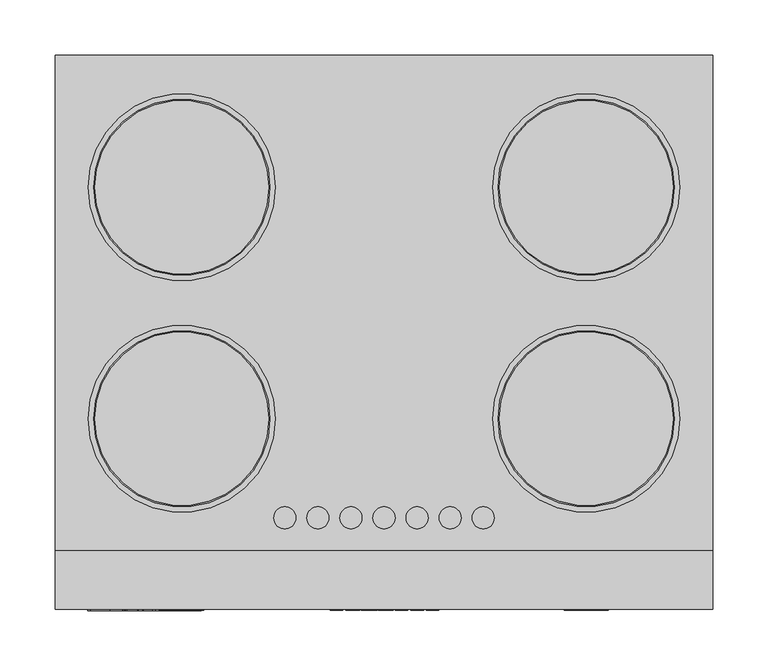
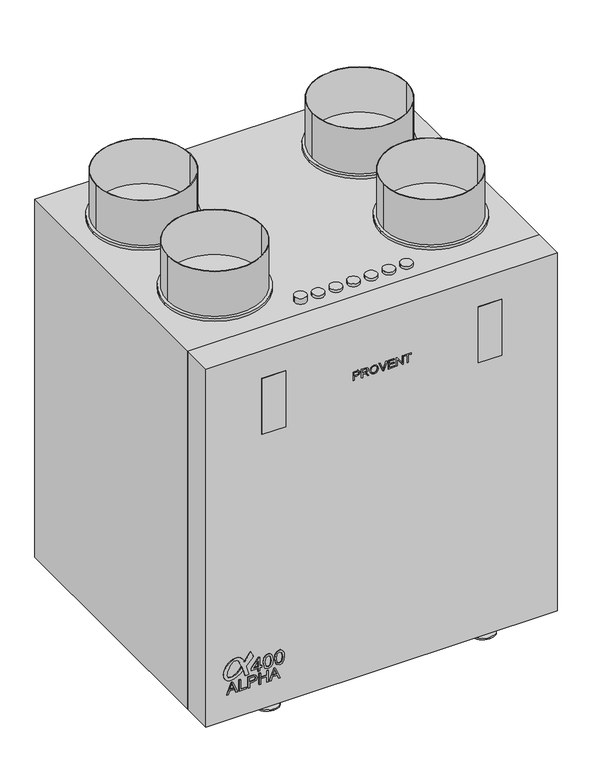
"""IFC4 building model written with IfcOpenShell, lengths in millimetres: proxy geometry, PROVENT_Вертикальная приточно-вытяжная установка_ALPHA 400 V_R : Provent ALPHA 400 V (R)."""

from ifc_helpers import new_model, si_unit, point, frame, frame_2d, origin, origin_with_axes, place, context, project, spatial, polyline, circle_curve, trimmed, segment, composite_curve, outline, extrude, source, transform, mapped, element, save
from ifc_brep_helpers import plane_surface, cylinder_surface, advanced_brep


def mechanical_equipment_2df97393(model_context):
    return source(origin(), model_context, "Body", "SolidModel", [
        extrude(outline(composite_curve([segment(trimmed(circle_curve(frame_2d((105.733129, -233.783782)), 0.5380284), [point((105.5307619, -233.2852621))], [point((105.5307619, -234.2823019))], True, "CARTESIAN"), True, "CONTINUOUS"), segment(polyline([(105.5307619, -234.2823019), (108.4438718, -235.40054), (110.8786758, -236.6411346), (111.8121807, -237.2947818)]), True, "CONTINUOUS"), segment(trimmed(circle_curve(frame_2d((104.0893382, -247.2651878)), 12.6115539), [point((111.8121807, -237.2947818))], [point((116.6261852, -248.6358658))], False, "CARTESIAN"), True, "CONTINUOUS"), segment(trimmed(circle_curve(frame_2d((94.7661112, -246.2458611)), 21.9903379), [point((116.6261852, -248.6358658))], [point((104.4885666, -265.9701817))], False, "CARTESIAN"), True, "CONTINUOUS"), segment(trimmed(circle_curve(frame_2d((93.5739124, -247.4383019)), 21.5072137), [point((104.4885666, -265.9701817))], [point((86.750764, -267.8344998))], False, "CARTESIAN"), True, "CONTINUOUS"), segment(trimmed(circle_curve(frame_2d((92.3890877, -256.7109746)), 12.4709065), [point((86.750764, -267.8344998))], [point((79.9366704, -256.0321435))], False, "CARTESIAN"), True, "CONTINUOUS"), segment(trimmed(circle_curve(frame_2d((110.0461474, -259.7363981)), 30.3364814), [point((79.9366704, -256.0321435))], [point((90.1381753, -236.8459033))], False, "CARTESIAN"), True, "CONTINUOUS"), segment(polyline([(90.1381753, -236.8459033), (97.4533974, -239.222763)]), True, "CONTINUOUS"), segment(trimmed(circle_curve(frame_2d((112.8376087, -264.6849056)), 29.7488598), [point((97.4533974, -239.222763))], [point((85.9068624, -252.0464893))], True, "CARTESIAN"), True, "CONTINUOUS"), segment(trimmed(circle_curve(frame_2d((94.2043298, -255.9404344)), 9.1657392), [point((85.9068624, -252.0464893))], [point((86.5295452, -260.9512682))], True, "CARTESIAN"), True, "CONTINUOUS"), segment(trimmed(circle_curve(frame_2d((91.0798658, -257.9803835)), 5.4342961), [point((86.5295452, -260.9512682))], [point((91.5402338, -263.3951443))], True, "CARTESIAN"), True, "CONTINUOUS"), segment(trimmed(circle_curve(frame_2d((91.5850962, -244.6438966)), 18.7513014), [point((91.5402338, -263.3951443))], [point((99.8454243, -261.47774))], True, "CARTESIAN"), True, "CONTINUOUS"), segment(trimmed(circle_curve(frame_2d((91.1893595, -236.4151166)), 26.5153267), [point((99.8454243, -261.47774))], [point((111.1844004, -253.829504))], True, "CARTESIAN"), True, "CONTINUOUS"), segment(trimmed(circle_curve(frame_2d((105.8571487, -249.1898123)), 7.0644427), [point((111.1844004, -253.829504))], [point((110.4868357, -243.8538635))], True, "CARTESIAN"), True, "CONTINUOUS"), segment(trimmed(circle_curve(frame_2d((74.7273898, -306.4745733)), 72.1116583), [point((110.4868357, -243.8538635))], [point((96.0155477, -237.5767824))], True, "CARTESIAN"), True, "CONTINUOUS"), segment(polyline([(96.0155477, -237.5767824), (80.1999436, -232.4379811), (80.1999436, -226.4036876), (94.9084674, -230.2047851)]), True, "CONTINUOUS"), segment(trimmed(circle_curve(frame_2d((95.7729921, -226.8594663)), 3.4552222), [point((94.9084674, -230.2047851))], [point((98.5138308, -228.9633589))], True, "CARTESIAN"), True, "CONTINUOUS"), segment(polyline([(98.5138308, -228.9633589), (109.4841363, -218.7333835)]), True, "CONTINUOUS"), segment(trimmed(circle_curve(frame_2d((110.1625275, -219.4608689)), 0.9947108), [point((109.4841363, -218.7333835))], [point((110.8409186, -218.7333835))], False, "CARTESIAN"), True, "CONTINUOUS"), segment(polyline([(110.8409186, -218.7333835), (118.9566741, -222.6917019)]), True, "CONTINUOUS"), segment(trimmed(circle_curve(frame_2d((118.472789, -223.0352964)), 0.593466), [point((118.9566741, -222.6917019))], [point((118.8242858, -223.513472))], False, "CARTESIAN"), True, "CONTINUOUS"), segment(polyline([(118.8242858, -223.513472), (105.5307619, -233.2852621)]), True, "CONTINUOUS")], self_intersect=False)), frame((0.0, -252.5, 0.0), z_axis=(0.0, 1.0, 0.0), x_axis=(0.0, 0.0, 1.0)), (0.0, 0.0, 1.0), 1.0),
        extrude(outline(polyline([(55.4809879, -263.5827445), (55.4809879, -260.9290891), (61.7595073, -258.6335054), (61.7595073, -250.3586131), (55.4809879, -248.0581243), (55.4809879, -245.4044689), (75.57225, -253.4242964), (75.57225, -255.5629171), (55.4809879, -263.5827445)]), holes=[polyline([(64.2709151, -257.7113479), (69.6419922, -255.7444055), (73.0608422, -254.4936067), (69.210344, -253.085845), (64.2709151, -251.2758655), (64.2709151, -257.7113479)])]), frame((0.0, -252.5, 0.0), z_axis=(0.0, 1.0, 0.0), x_axis=(0.0, 0.0, 1.0)), (0.0, 0.0, 1.0), 5.0),
        extrude(outline(polyline([(55.4809879, -242.7213829), (55.4809879, -230.1643441), (57.9923957, -230.1643441), (57.9923957, -240.2099751), (75.57225, -240.2099751), (75.57225, -242.7213829), (55.4809879, -242.7213829)])), frame((0.0, -252.5, 0.0), z_axis=(0.0, 1.0, 0.0), x_axis=(0.0, 0.0, 1.0)), (0.0, 0.0, 1.0), 5.0),
        extrude(outline(polyline([(55.4809879, -227.3390104), (55.4809879, -224.8276026), (63.6430631, -224.8276026), (63.6430631, -219.7214005), (65.4187069, -213.8867921), (69.7597144, -212.2705639), (72.499209, -212.8689852), (74.441626, -214.4508778), (75.3809513, -216.8911617), (75.57225, -219.8930788), (75.57225, -227.3390104), (55.4809879, -227.3390104)]), holes=[polyline([(66.1544709, -224.8276026), (73.0608422, -224.8276026), (73.0608422, -219.6331089), (72.8891639, -217.1217011), (71.7511823, -215.4269914), (69.6714228, -214.7819716), (67.0766284, -215.8758074), (66.1544709, -219.5742477), (66.1544709, -224.8276026)])]), frame((0.0, -252.5, 0.0), z_axis=(0.0, 1.0, 0.0), x_axis=(0.0, 0.0, 1.0)), (0.0, 0.0, 1.0), 5.0),
        extrude(outline(polyline([(55.4809879, -208.8173782), (55.4809879, -206.3059704), (64.898767, -206.3059704), (64.898767, -195.6324875), (55.4809879, -195.6324875), (55.4809879, -193.1210797), (75.57225, -193.1210797), (75.57225, -195.6324875), (67.4101748, -195.6324875), (67.4101748, -206.3059704), (75.57225, -206.3059704), (75.57225, -208.8173782), (55.4809879, -208.8173782)])), frame((0.0, -252.5, 0.0), z_axis=(0.0, 1.0, 0.0), x_axis=(0.0, 0.0, 1.0)), (0.0, 0.0, 1.0), 5.0),
        extrude(outline(polyline([(55.4809879, -191.0658457), (55.4809879, -188.4121902), (61.7595073, -186.1166065), (61.7595073, -177.8417142), (55.4809879, -175.5412255), (55.4809879, -172.88757), (75.57225, -180.9073975), (75.57225, -183.0460182), (55.4809879, -191.0658457)]), holes=[polyline([(64.2709151, -185.194449), (69.6419922, -183.2275066), (73.0608422, -181.9767078), (69.210344, -180.5689461), (64.2709151, -178.7589666), (64.2709151, -185.194449)])]), frame((0.0, -252.5, 0.0), z_axis=(0.0, 1.0, 0.0), x_axis=(0.0, 0.0, 1.0)), (0.0, 0.0, 1.0), 5.0),
        extrude(outline(polyline([(79.6103604, -210.5175072), (79.6103604, -207.3782475), (85.4964723, -207.3782475), (85.4964723, -204.2389878), (88.635732, -204.2389878), (88.635732, -207.3782475), (104.3320305, -207.3782475), (104.3320305, -209.7326923), (88.635732, -221.8973236), (85.4964723, -221.8973236), (85.4964723, -210.5175072), (79.6103604, -210.5175072)]), holes=[polyline([(88.635732, -210.5175072), (88.635732, -218.0345626), (98.3355539, -210.5175072), (88.635732, -210.5175072)])]), frame((0.0, -252.5, 0.0), z_axis=(0.0, 1.0, 0.0), x_axis=(0.0, 0.0, 1.0)), (0.0, 0.0, 1.0), 5.0),
        extrude(outline(polyline([(91.9650641, -201.4921356), (81.6091859, -198.990538), (79.2179529, -193.2515789), (80.5944447, -188.6561196), (84.7699054, -185.9245958), (91.9650641, -185.0110222), (97.8665044, -185.5812393), (101.5821126, -187.0527673), (103.9150975, -189.5850217), (104.7244379, -193.2515789), (103.3571432, -197.8286441), (99.1908796, -200.5693649), (91.9650641, -201.4921356)]), holes=[polyline([(91.9711954, -198.3528759), (99.9051838, -196.832297), (101.5851782, -193.2883671), (99.6783232, -189.5727589), (91.9711954, -188.1502819), (84.1812942, -189.6218099), (82.3572126, -193.2515789), (84.1751628, -196.8813479), (91.9711954, -198.3528759)])]), frame((0.0, -252.5, 0.0), z_axis=(0.0, 1.0, 0.0), x_axis=(0.0, 0.0, 1.0)), (0.0, 0.0, 1.0), 5.0),
        extrude(outline(polyline([(91.9650641, -182.26417), (81.6091859, -179.7625724), (79.2179529, -174.0236133), (80.5944447, -169.428154), (84.7699054, -166.6966302), (91.9650641, -165.7830566), (97.8665044, -166.3532737), (101.5821126, -167.8248017), (103.9150975, -170.3570561), (104.7244379, -174.0236133), (103.3571432, -178.6006784), (99.1908796, -181.3413993), (91.9650641, -182.26417)]), holes=[polyline([(91.9711954, -179.1249103), (99.9051838, -177.6043314), (101.5851782, -174.0604015), (99.6783232, -170.3447933), (91.9711954, -168.9223163), (84.1812942, -170.3938443), (82.3572126, -174.0236133), (84.1751628, -177.6533823), (91.9711954, -179.1249103)])]), frame((0.0, -252.5, 0.0), z_axis=(0.0, 1.0, 0.0), x_axis=(0.0, 0.0, 1.0)), (0.0, 0.0, 1.0), 5.0),
        extrude(outline(polyline([(-163.5, -252.5), (-203.5, -252.5), (-203.5, -251.5), (-163.5, -251.5), (-163.5, -252.5)])), frame((0.0, 0.0, 503.0), z_axis=(0.0, 0.0, 1.0), x_axis=(1.0, 0.0, 0.0)), (0.0, 0.0, 1.0), 100.0),
        extrude(outline(polyline([(203.5, -252.5), (163.5, -252.5), (163.5, -251.5), (203.5, -251.5), (203.5, -252.5)])), frame((0.0, 0.0, 503.0), z_axis=(0.0, 0.0, 1.0), x_axis=(1.0, 0.0, 0.0)), (0.0, 0.0, 1.0), 100.0),
        extrude(outline(composite_curve([segment(trimmed(circle_curve(frame_2d((-90.0, -168.5)), 10.0), [point((-100.0, -168.5))], [point((-80.0, -168.5))], False, "CARTESIAN"), True, "CONTINUOUS"), segment(trimmed(circle_curve(frame_2d((-90.0, -168.5)), 10.0), [point((-80.0, -168.5))], [point((-100.0, -168.5))], False, "CARTESIAN"), True, "CONTINUOUS")], self_intersect=False)), frame((0.0, 0.0, 653.0), z_axis=(0.0, 0.0, 1.0), x_axis=(1.0, 0.0, 0.0)), (0.0, 0.0, 1.0), 10.0),
        extrude(outline(composite_curve([segment(trimmed(circle_curve(frame_2d((0.0, -168.5)), 10.0), [point((-10.0, -168.5))], [point((10.0, -168.5))], False, "CARTESIAN"), True, "CONTINUOUS"), segment(trimmed(circle_curve(frame_2d((0.0, -168.5)), 10.0), [point((10.0, -168.5))], [point((-10.0, -168.5))], False, "CARTESIAN"), True, "CONTINUOUS")], self_intersect=False)), frame((0.0, 0.0, 653.0), z_axis=(0.0, 0.0, 1.0), x_axis=(1.0, 0.0, 0.0)), (0.0, 0.0, 1.0), 5.0),
        extrude(outline(composite_curve([segment(trimmed(circle_curve(frame_2d((30.0, -168.5)), 10.0), [point((20.0, -168.5))], [point((40.0, -168.5))], False, "CARTESIAN"), True, "CONTINUOUS"), segment(trimmed(circle_curve(frame_2d((30.0, -168.5)), 10.0), [point((40.0, -168.5))], [point((20.0, -168.5))], False, "CARTESIAN"), True, "CONTINUOUS")], self_intersect=False)), frame((0.0, 0.0, 653.0), z_axis=(0.0, 0.0, 1.0), x_axis=(1.0, 0.0, 0.0)), (0.0, 0.0, 1.0), 5.0),
        extrude(outline(composite_curve([segment(trimmed(circle_curve(frame_2d((60.0, -168.5)), 10.0), [point((50.0, -168.5))], [point((70.0, -168.5))], False, "CARTESIAN"), True, "CONTINUOUS"), segment(trimmed(circle_curve(frame_2d((60.0, -168.5)), 10.0), [point((70.0, -168.5))], [point((50.0, -168.5))], False, "CARTESIAN"), True, "CONTINUOUS")], self_intersect=False)), frame((0.0, 0.0, 653.0), z_axis=(0.0, 0.0, 1.0), x_axis=(1.0, 0.0, 0.0)), (0.0, 0.0, 1.0), 5.0),
        extrude(outline(composite_curve([segment(trimmed(circle_curve(frame_2d((90.0, -168.5)), 10.0), [point((80.0, -168.5))], [point((100.0, -168.5))], False, "CARTESIAN"), True, "CONTINUOUS"), segment(trimmed(circle_curve(frame_2d((90.0, -168.5)), 10.0), [point((100.0, -168.5))], [point((80.0, -168.5))], False, "CARTESIAN"), True, "CONTINUOUS")], self_intersect=False)), frame((0.0, 0.0, 653.0), z_axis=(0.0, 0.0, 1.0), x_axis=(1.0, 0.0, 0.0)), (0.0, 0.0, 1.0), 5.0),
        extrude(outline(composite_curve([segment(trimmed(circle_curve(frame_2d((-30.0, -168.5)), 10.0), [point((-40.0, -168.5))], [point((-20.0, -168.5))], False, "CARTESIAN"), True, "CONTINUOUS"), segment(trimmed(circle_curve(frame_2d((-30.0, -168.5)), 10.0), [point((-20.0, -168.5))], [point((-40.0, -168.5))], False, "CARTESIAN"), True, "CONTINUOUS")], self_intersect=False)), frame((0.0, 0.0, 653.0), z_axis=(0.0, 0.0, 1.0), x_axis=(1.0, 0.0, 0.0)), (0.0, 0.0, 1.0), 5.0),
        extrude(outline(composite_curve([segment(trimmed(circle_curve(frame_2d((-60.0, -168.5)), 10.0), [point((-70.0, -168.5))], [point((-50.0, -168.5))], False, "CARTESIAN"), True, "CONTINUOUS"), segment(trimmed(circle_curve(frame_2d((-60.0, -168.5)), 10.0), [point((-50.0, -168.5))], [point((-70.0, -168.5))], False, "CARTESIAN"), True, "CONTINUOUS")], self_intersect=False)), frame((0.0, 0.0, 653.0), z_axis=(0.0, 0.0, 1.0), x_axis=(1.0, 0.0, 0.0)), (0.0, 0.0, 1.0), 5.0),
        advanced_brep(
        [(-203.5, -198.7475488, 2.5), (-203.5, -161.2475488, 10.0), (-203.5, -148.5, 10.0), (-203.5, -148.5, 7.5), (-203.5, -161.0, 7.5), (-203.5, -198.5, 0.0), (-203.5, -231.5, 0.0), (-203.5, -231.5, 2.5), (-163.5, -198.5, 0.0), (-163.5, -161.0, 7.5), (-163.5, -148.5, 7.5), (-163.5, -148.5, 10.0), (-163.5, -161.2475488, 10.0), (-163.5, -198.7475488, 2.5), (-163.5, -231.5, 2.5), (-163.5, -231.5, 0.0), (-183.5, -251.5, 0.0), (-183.5, -251.5, 2.5)],
        [
            (0, 1),
            (1, 2),
            (2, 3),
            (3, 4),
            (4, 5),
            (5, 6),
            (6, 7),
            (7, 0),
            (8, 9),
            (9, 10),
            (10, 11),
            (11, 12),
            (12, 13),
            (13, 14),
            (14, 15),
            (15, 8),
            (5, 8),
            (15, 16, circle_curve(frame((-183.5, -231.5, 0.0), z_axis=(0.0, 0.0, -1.0), x_axis=(-1.0, 0.0, 0.0)), 20.0)),
            (16, 6, circle_curve(frame((-183.5, -231.5, 0.0), z_axis=(0.0, 0.0, -1.0), x_axis=(1.0, 0.0, 0.0)), 20.0)),
            (4, 9),
            (3, 10),
            (2, 11),
            (1, 12),
            (0, 13),
            (7, 17, circle_curve(frame((-183.5, -231.5, 2.5), z_axis=(0.0, 0.0, 1.0), x_axis=(1.0, 0.0, 0.0)), 20.0)),
            (17, 14, circle_curve(frame((-183.5, -231.5, 2.5), z_axis=(0.0, 0.0, 1.0), x_axis=(-1.0, 0.0, 0.0)), 20.0)),
            (17, 16),
        ],
        [
            plane_surface(frame((-203.5, -251.5, 2.5), z_axis=(-1.0, 0.0, 0.0), x_axis=(0.0, 1.0, 0.0))),
            plane_surface(frame((-163.5, -251.5, 2.5), z_axis=(1.0, 0.0, 0.0), x_axis=(0.0, -1.0, 0.0))),
            plane_surface(frame((-203.5, -198.5, 0.0), z_axis=(0.0, 0.0, -1.0), x_axis=(1.0, 0.0, 0.0))),
            plane_surface(frame((-203.5, -161.0, 7.5), z_axis=(0.0, 0.19611613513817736, -0.9805806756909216), x_axis=(1.0, 0.0, 0.0))),
            plane_surface(frame((-203.5, -148.5, 7.5), z_axis=(0.0, 0.0, -1.0), x_axis=(1.0, 0.0, 0.0))),
            plane_surface(frame((-203.5, -148.5, 10.0), z_axis=(0.0, 1.0, 0.0), x_axis=(1.0, 0.0, 0.0))),
            plane_surface(frame((-203.5, -161.2475488, 10.0), z_axis=(0.0, 0.0, 1.0), x_axis=(1.0, 0.0, 0.0))),
            plane_surface(frame((-203.5, -198.7475488, 2.5), z_axis=(0.0, -0.19611613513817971, 0.980580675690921), x_axis=(1.0, 0.0, 0.0))),
            plane_surface(frame((-203.5, -251.5, 2.5), z_axis=(0.0, 0.0, 1.0), x_axis=(1.0, 0.0, 0.0))),
            cylinder_surface(frame((-183.5, -231.5, 0.0), z_axis=(0.0, 0.0, -1.0), x_axis=(-1.0, 0.0, 0.0)), 20.0),
            cylinder_surface(frame((-183.5, -231.5, 0.0), z_axis=(0.0, 0.0, -1.0), x_axis=(1.0, 0.0, 0.0)), 20.0),
        ],
        [
            (0, [[1, 2, 3, 4, 5, 6, 7, 8]]),
            (1, [[9, 10, 11, 12, 13, 14, 15, 16]]),
            (2, [[17, -16, 18, 19, -6]]),
            (3, [[-5, 20, -9, -17]]),
            (4, [[-4, 21, -10, -20]]),
            (5, [[-3, 22, -11, -21]]),
            (6, [[-2, 23, -12, -22]]),
            (7, [[-1, 24, -13, -23]]),
            (8, [[-24, -8, 25, 26, -14]]),
            (9, [[-15, -26, 27, -18]]),
            (10, [[-7, -19, -27, -25]]),
        ],
    ),
        advanced_brep(
        [(203.5, -198.5, 0.0), (203.5, -161.0, 7.5), (203.5, -148.5, 7.5), (203.5, -148.5, 10.0), (203.5, -161.2475488, 10.0), (203.5, -198.7475488, 2.5), (203.5, -231.5, 2.5), (203.5, -231.5, 0.0), (163.5, -198.7475488, 2.5), (163.5, -161.2475488, 10.0), (163.5, -148.5, 10.0), (163.5, -148.5, 7.5), (163.5, -161.0, 7.5), (163.5, -198.5, 0.0), (163.5, -231.5, 0.0), (163.5, -231.5, 2.5), (183.5, -251.5, 0.0), (183.5, -251.5, 2.5)],
        [
            (0, 1),
            (1, 2),
            (2, 3),
            (3, 4),
            (4, 5),
            (5, 6),
            (6, 7),
            (7, 0),
            (8, 9),
            (9, 10),
            (10, 11),
            (11, 12),
            (12, 13),
            (13, 14),
            (14, 15),
            (15, 8),
            (13, 0),
            (7, 16, circle_curve(frame((183.5, -231.5, 0.0), z_axis=(0.0, 0.0, -1.0), x_axis=(-1.0, 0.0, 0.0)), 20.0)),
            (16, 14, circle_curve(frame((183.5, -231.5, 0.0), z_axis=(0.0, 0.0, -1.0), x_axis=(1.0, 0.0, 0.0)), 20.0)),
            (12, 1),
            (11, 2),
            (10, 3),
            (9, 4),
            (8, 5),
            (15, 17, circle_curve(frame((183.5, -231.5, 2.5), z_axis=(0.0, 0.0, 1.0), x_axis=(1.0, 0.0, 0.0)), 20.0)),
            (17, 6, circle_curve(frame((183.5, -231.5, 2.5), z_axis=(0.0, 0.0, 1.0), x_axis=(-1.0, 0.0, 0.0)), 20.0)),
            (16, 17),
        ],
        [
            plane_surface(frame((203.5, -251.5, 0.0), z_axis=(1.0, 0.0, 0.0), x_axis=(0.0, 0.0, -1.0))),
            plane_surface(frame((163.5, -251.5, 0.0), z_axis=(-1.0, 0.0, 0.0), x_axis=(0.0, 0.0, 1.0))),
            plane_surface(frame((203.5, -251.5, 0.0), z_axis=(0.0, 0.0, -1.0), x_axis=(-1.0, 0.0, 0.0))),
            plane_surface(frame((203.5, -198.5, 0.0), z_axis=(0.0, 0.19611613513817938, -0.9805806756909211), x_axis=(-1.0, 0.0, 0.0))),
            plane_surface(frame((203.5, -161.0, 7.5), z_axis=(0.0, 0.0, -1.0), x_axis=(-1.0, 0.0, 0.0))),
            plane_surface(frame((203.5, -148.5, 7.5), z_axis=(0.0, 1.0, 0.0), x_axis=(-1.0, 0.0, 0.0))),
            plane_surface(frame((203.5, -148.5, 10.0), z_axis=(0.0, 0.0, 1.0), x_axis=(-1.0, 0.0, 0.0))),
            plane_surface(frame((203.5, -161.2475488, 10.0), z_axis=(0.0, -0.19611613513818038, 0.9805806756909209), x_axis=(-1.0, 0.0, 0.0))),
            plane_surface(frame((203.5, -198.7475488, 2.5), z_axis=(0.0, 0.0, 1.0), x_axis=(-1.0, 0.0, 0.0))),
            cylinder_surface(frame((183.5, -231.5, 0.0), z_axis=(0.0, 0.0, -1.0), x_axis=(1.0, 0.0, 0.0)), 20.0),
            cylinder_surface(frame((183.5, -231.5, 0.0), z_axis=(0.0, 0.0, -1.0), x_axis=(-1.0, 0.0, 0.0)), 20.0),
        ],
        [
            (0, [[1, 2, 3, 4, 5, 6, 7, 8]]),
            (1, [[9, 10, 11, 12, 13, 14, 15, 16]]),
            (2, [[17, -8, 18, 19, -14]]),
            (3, [[-1, -17, -13, 20]]),
            (4, [[-2, -20, -12, 21]]),
            (5, [[-3, -21, -11, 22]]),
            (6, [[-4, -22, -10, 23]]),
            (7, [[-5, -23, -9, 24]]),
            (8, [[-24, -16, 25, 26, -6]]),
            (9, [[-15, -19, 27, -25]]),
            (10, [[-7, -26, -27, -18]]),
        ],
    ),
        extrude(outline(polyline([(298.5, -251.5), (-298.5, -251.5), (-298.5, -198.5), (298.5, -198.5), (298.5, -251.5)])), frame((0.0, 0.0, 10.0), z_axis=(0.0, 0.0, 1.0), x_axis=(1.0, 0.0, 0.0)), (0.0, 0.0, 1.0), 643.0),
        extrude(outline(polyline([(545.5, -48.7370067), (545.5, -46.8534509), (551.6215564, -46.8534509), (551.6215564, -43.0237993), (552.9532892, -38.647843), (556.2090449, -37.4356718), (558.2636658, -37.8844879), (559.7204785, -39.0709073), (560.4249725, -40.9011202), (560.5684465, -43.152558), (560.5684465, -48.7370067), (545.5, -48.7370067)]), holes=[polyline([(553.5051122, -46.8534509), (558.6848907, -46.8534509), (558.6848907, -42.9575806), (557.7026458, -39.8029925), (556.1428261, -39.3192276), (554.1967304, -40.1396045), (553.5051122, -42.9134347), (553.5051122, -46.8534509)])]), frame((0.0, -252.5, 0.0), z_axis=(0.0, 1.0, 0.0), x_axis=(0.0, 0.0, 1.0)), (0.0, 0.0, 1.0), 5.0),
        extrude(outline(polyline([(545.5, -34.8457826), (545.5, -32.9622268), (552.0924454, -32.9622268), (550.690815, -27.7051931), (548.6233181, -26.2888474), (545.5, -24.3280363), (545.5, -22.1391385), (549.5834901, -24.6517725), (552.3278898, -27.2490194), (553.7295202, -24.0944313), (556.4444894, -23.0735587), (558.7235183, -23.6897611), (560.1619369, -25.3378724), (560.5684465, -28.3526654), (560.5684465, -34.8457826), (545.5, -34.8457826)]), holes=[polyline([(553.9760012, -32.9622268), (558.6848907, -32.9622268), (558.6848907, -28.2717313), (558.0337396, -25.7535791), (554.2427156, -26.5960288), (553.9760012, -28.7462991), (553.9760012, -32.9622268)])]), frame((0.0, -252.5, 0.0), z_axis=(0.0, 1.0, 0.0), x_axis=(0.0, 0.0, 1.0)), (0.0, 0.0, 1.0), 5.0),
        extrude(outline(polyline([(552.835567, -20.4836695), (549.08501, -19.6228256), (546.2891069, -17.0917975), (545.2645555, -13.3026129), (546.1916182, -9.655063), (548.9213026, -7.0431008), (553.0084715, -6.1215564), (557.0404582, -6.9971155), (559.8106096, -9.542859), (560.803891, -13.2915765), (558.6885695, -18.4750338), (552.835567, -20.4836695)]), holes=[polyline([(552.8171729, -18.6001137), (557.5131866, -17.0292576), (558.9203352, -13.28054), (558.1900894, -10.5159068), (556.1317897, -8.6452269), (553.0231868, -8.0051122), (548.6785004, -9.5005525), (547.1481113, -13.3136494), (548.6637852, -17.0936369), (552.8171729, -18.6001137)])]), frame((0.0, -252.5, 0.0), z_axis=(0.0, 1.0, 0.0), x_axis=(0.0, 0.0, 1.0)), (0.0, 0.0, 1.0), 5.0),
        extrude(outline(polyline([(545.5, 0.919705), (545.5, 2.8658007), (560.5684465, 8.6084387), (560.5684465, 6.5924454), (549.7122488, 2.5678163), (547.2658336, 1.7658336), (549.7122488, 0.9528144), (560.5684465, -3.0607782), (560.5684465, -5.0767715), (545.5, 0.919705)])), frame((0.0, -252.5, 0.0), z_axis=(0.0, 1.0, 0.0), x_axis=(0.0, 0.0, 1.0)), (0.0, 0.0, 1.0), 5.0),
        extrude(outline(polyline([(545.5, 10.359557), (545.5, 21.4254474), (547.3835558, 21.4254474), (547.3835558, 12.2431128), (552.3278898, 12.2431128), (552.3278898, 20.719114), (554.2114456, 20.719114), (554.2114456, 12.2431128), (558.6848907, 12.2431128), (558.6848907, 21.1900029), (560.5684465, 21.1900029), (560.5684465, 10.359557), (545.5, 10.359557)])), frame((0.0, -252.5, 0.0), z_axis=(0.0, 1.0, 0.0), x_axis=(0.0, 0.0, 1.0)), (0.0, 0.0, 1.0), 5.0),
        extrude(outline(polyline([(545.5, 24.2507811), (545.5, 26.1343369), (557.4414496, 26.1343369), (545.5, 34.0070116), (545.5, 36.023005), (560.5684465, 36.023005), (560.5684465, 34.1394492), (548.6306758, 34.1394492), (560.5684465, 26.2667745), (560.5684465, 24.2507811), (545.5, 24.2507811)])), frame((0.0, -252.5, 0.0), z_axis=(0.0, 1.0, 0.0), x_axis=(0.0, 0.0, 1.0)), (0.0, 0.0, 1.0), 5.0),
        extrude(outline(polyline([(545.5, 43.0863393), (545.5, 44.9698951), (558.6848907, 44.9698951), (558.6848907, 49.9142291), (560.5684465, 49.9142291), (560.5684465, 38.1420053), (558.6848907, 38.1420053), (558.6848907, 43.0863393), (545.5, 43.0863393)])), frame((0.0, -252.5, 0.0), z_axis=(0.0, 1.0, 0.0), x_axis=(0.0, 0.0, 1.0)), (0.0, 0.0, 1.0), 5.0),
        extrude(outline(composite_curve([segment(trimmed(circle_curve(frame_2d((-183.5, 131.5)), 85.0), [point((-268.5, 131.5))], [point((-98.5, 131.5))], False, "CARTESIAN"), True, "CONTINUOUS"), segment(trimmed(circle_curve(frame_2d((-183.5, 131.5)), 85.0), [point((-98.5, 131.5))], [point((-268.5, 131.5))], False, "CARTESIAN"), True, "CONTINUOUS")], self_intersect=False)), frame((0.0, 0.0, 653.0), z_axis=(0.0, 0.0, 1.0), x_axis=(1.0, 0.0, 0.0)), (0.0, 0.0, 1.0), 5.0),
        extrude(outline(composite_curve([segment(trimmed(circle_curve(frame_2d((183.5, 131.5)), 85.0), [point((98.5, 131.5))], [point((268.5, 131.5))], False, "CARTESIAN"), True, "CONTINUOUS"), segment(trimmed(circle_curve(frame_2d((183.5, 131.5)), 85.0), [point((268.5, 131.5))], [point((98.5, 131.5))], False, "CARTESIAN"), True, "CONTINUOUS")], self_intersect=False)), frame((0.0, 0.0, 653.0), z_axis=(0.0, 0.0, 1.0), x_axis=(1.0, 0.0, 0.0)), (0.0, 0.0, 1.0), 5.0),
        extrude(outline(composite_curve([segment(trimmed(circle_curve(frame_2d((183.5, -78.5)), 85.0), [point((98.5, -78.5))], [point((268.5, -78.5))], False, "CARTESIAN"), True, "CONTINUOUS"), segment(trimmed(circle_curve(frame_2d((183.5, -78.5)), 85.0), [point((268.5, -78.5))], [point((98.5, -78.5))], False, "CARTESIAN"), True, "CONTINUOUS")], self_intersect=False)), frame((0.0, 0.0, 653.0), z_axis=(0.0, 0.0, 1.0), x_axis=(1.0, 0.0, 0.0)), (0.0, 0.0, 1.0), 5.0),
        extrude(outline(composite_curve([segment(trimmed(circle_curve(frame_2d((-183.5, -78.5)), 85.0), [point((-268.5, -78.5))], [point((-98.5, -78.5))], False, "CARTESIAN"), True, "CONTINUOUS"), segment(trimmed(circle_curve(frame_2d((-183.5, -78.5)), 85.0), [point((-98.5, -78.5))], [point((-268.5, -78.5))], False, "CARTESIAN"), True, "CONTINUOUS")], self_intersect=False)), frame((0.0, 0.0, 653.0), z_axis=(0.0, 0.0, 1.0), x_axis=(1.0, 0.0, 0.0)), (0.0, 0.0, 1.0), 5.0),
        extrude(outline(polyline([(163.5, 251.5), (163.5, 249.0), (-163.5, 249.0), (-163.5, 251.5), (163.5, 251.5)])), origin_with_axes(), (0.0, 0.0, 1.0), 10.0),
        extrude(outline(composite_curve([segment(trimmed(circle_curve(frame_2d((-183.5, 131.5)), 80.0), [point((-263.5, 131.5))], [point((-103.5, 131.5))], False, "CARTESIAN"), True, "CONTINUOUS"), segment(trimmed(circle_curve(frame_2d((-183.5, 131.5)), 80.0), [point((-103.5, 131.5))], [point((-263.5, 131.5))], False, "CARTESIAN"), True, "CONTINUOUS")], self_intersect=False), holes=[composite_curve([segment(trimmed(circle_curve(frame_2d((-183.5, 131.5)), 79.0), [point((-262.5, 131.5))], [point((-104.5, 131.5))], True, "CARTESIAN"), True, "CONTINUOUS"), segment(trimmed(circle_curve(frame_2d((-183.5, 131.5)), 79.0), [point((-104.5, 131.5))], [point((-262.5, 131.5))], True, "CARTESIAN"), True, "CONTINUOUS")], self_intersect=False)]), frame((0.0, 0.0, 653.0), z_axis=(0.0, 0.0, 1.0), x_axis=(1.0, 0.0, 0.0)), (0.0, 0.0, 1.0), 86.0),
        extrude(outline(composite_curve([segment(trimmed(circle_curve(frame_2d((183.5, 131.5)), 80.0), [point((103.5, 131.5))], [point((263.5, 131.5))], False, "CARTESIAN"), True, "CONTINUOUS"), segment(trimmed(circle_curve(frame_2d((183.5, 131.5)), 80.0), [point((263.5, 131.5))], [point((103.5, 131.5))], False, "CARTESIAN"), True, "CONTINUOUS")], self_intersect=False), holes=[composite_curve([segment(trimmed(circle_curve(frame_2d((183.5, 131.5)), 79.0), [point((104.5, 131.5))], [point((262.5, 131.5))], True, "CARTESIAN"), True, "CONTINUOUS"), segment(trimmed(circle_curve(frame_2d((183.5, 131.5)), 79.0), [point((262.5, 131.5))], [point((104.5, 131.5))], True, "CARTESIAN"), True, "CONTINUOUS")], self_intersect=False)]), frame((0.0, 0.0, 653.0), z_axis=(0.0, 0.0, 1.0), x_axis=(1.0, 0.0, 0.0)), (0.0, 0.0, 1.0), 86.0),
        extrude(outline(composite_curve([segment(trimmed(circle_curve(frame_2d((-183.5, -78.5)), 80.0), [point((-263.5, -78.5))], [point((-103.5, -78.5))], False, "CARTESIAN"), True, "CONTINUOUS"), segment(trimmed(circle_curve(frame_2d((-183.5, -78.5)), 80.0), [point((-103.5, -78.5))], [point((-263.5, -78.5))], False, "CARTESIAN"), True, "CONTINUOUS")], self_intersect=False), holes=[composite_curve([segment(trimmed(circle_curve(frame_2d((-183.5, -78.5)), 79.0), [point((-262.5, -78.5))], [point((-104.5, -78.5))], True, "CARTESIAN"), True, "CONTINUOUS"), segment(trimmed(circle_curve(frame_2d((-183.5, -78.5)), 79.0), [point((-104.5, -78.5))], [point((-262.5, -78.5))], True, "CARTESIAN"), True, "CONTINUOUS")], self_intersect=False)]), frame((0.0, 0.0, 653.0), z_axis=(0.0, 0.0, 1.0), x_axis=(1.0, 0.0, 0.0)), (0.0, 0.0, 1.0), 86.0),
        extrude(outline(composite_curve([segment(trimmed(circle_curve(frame_2d((183.5, -78.5)), 80.0), [point((103.5, -78.5))], [point((263.5, -78.5))], False, "CARTESIAN"), True, "CONTINUOUS"), segment(trimmed(circle_curve(frame_2d((183.5, -78.5)), 80.0), [point((263.5, -78.5))], [point((103.5, -78.5))], False, "CARTESIAN"), True, "CONTINUOUS")], self_intersect=False), holes=[composite_curve([segment(trimmed(circle_curve(frame_2d((183.5, -78.5)), 79.0), [point((104.5, -78.5))], [point((262.5, -78.5))], True, "CARTESIAN"), True, "CONTINUOUS"), segment(trimmed(circle_curve(frame_2d((183.5, -78.5)), 79.0), [point((262.5, -78.5))], [point((104.5, -78.5))], True, "CARTESIAN"), True, "CONTINUOUS")], self_intersect=False)]), frame((0.0, 0.0, 653.0), z_axis=(0.0, 0.0, 1.0), x_axis=(1.0, 0.0, 0.0)), (0.0, 0.0, 1.0), 86.0),
        extrude(outline(polyline([(298.5, 251.5), (298.5, -198.5), (-298.5, -198.5), (-298.5, 251.5), (298.5, 251.5)])), frame((0.0, 0.0, 10.0), z_axis=(0.0, 0.0, 1.0), x_axis=(1.0, 0.0, 0.0)), (0.0, 0.0, 1.0), 643.0),
    ])


if __name__ == "__main__":
    model = new_model("IFC4")
    model_context = context("Model", 3, world=origin())
    ifc_project = project(units=[si_unit("LENGTHUNIT", "METRE", prefix="MILLI")], contexts=[model_context])
    site = spatial("IfcSite", under=ifc_project)
    building = spatial("IfcBuilding", under=site)
    placement = place(None, origin())
    mechanical_equipment_shape = mechanical_equipment_2df97393(model_context)
    element("IfcBuildingElementProxy", 1, Name="PROVENT_Вертикальная приточно-вытяжная установка_ALPHA 400 V_R : Provent ALPHA 400 V (R)", ObjectType="PROVENT_Вертикальная приточно-вытяжная установка_ALPHA 400 V_R : Provent ALPHA 400 V (R)", at=placement, inside=building, context=model_context, shape_type="MappedRepresentation", body=[
        mapped(mechanical_equipment_shape, transform((0.0, 0.0, 0.0), x_axis=(1.0, 0.0, 0.0), y_axis=(0.0, 1.0, 0.0), z_axis=(0.0, 0.0, 1.0))),
    ])
    save(model, "model.ifc")
